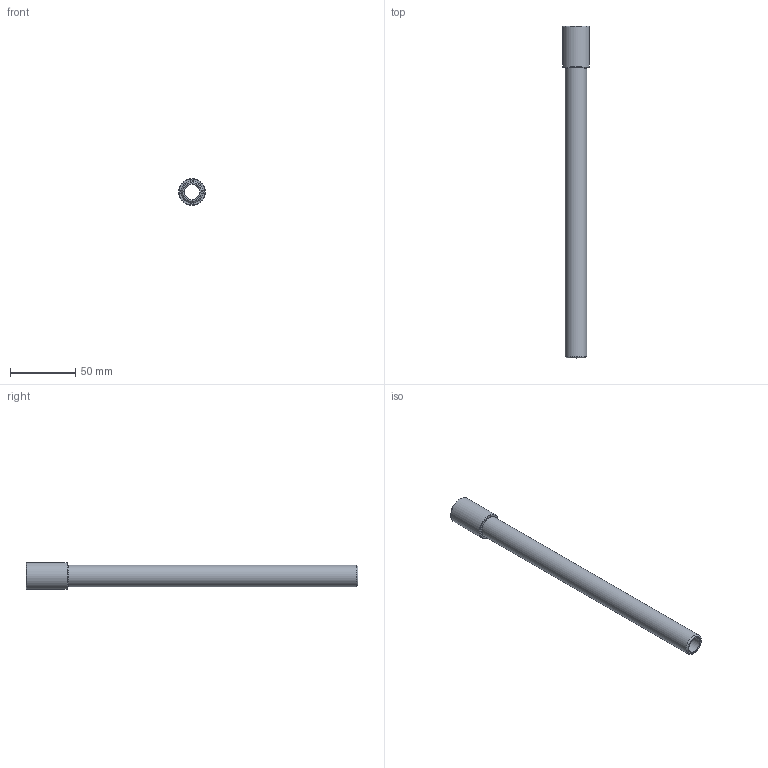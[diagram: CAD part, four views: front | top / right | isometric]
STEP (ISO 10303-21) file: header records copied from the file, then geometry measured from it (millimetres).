
FILE_DESCRIPTION(/* description */ (''),/* implementation_level */ '2;1');
FILE_NAME(/* name */ 'C:/Users/drich/Desktop/EP38X10 v1.step',/* time_stamp */ '2019-11-18T15:07:22-06:00',/* author */ (''),/* organization */ (''),/* preprocessor_version */ 'ST-DEVELOPER v18',/* originating_system */ 'Autodesk Translation Framework v8.12.0.6',/* authorisation */ '');
FILE_SCHEMA (('AUTOMOTIVE_DESIGN { 1 0 10303 214 3 1 1 }'));
Length unit declared in the file: inch
Products named in the file (2): EP38X10; EP38X4
Assembly tree (1 placements, depth 2):
  EP38X10
    EP38X4
Bounding box: 20.62 x 254 x 20.62 mm (x, y, z)
Volume: 28533.9 mm3; surface area: 23739 mm2
Topology: 1 solids, 1 shells, 23 faces, 55 edges, 37 vertices
Faces by surface type: plane 11, cone 7, cylinder 5
Full cylindrical faces by diameter (mm): 11.887 x1, 14.986 x1, 15.173 x1, 16.537 x1, 20.625 x1
Entity records: 740 total; most frequent: CARTESIAN_POINT 132, DIRECTION 124, ORIENTED_EDGE 110, EDGE_CURVE 55, AXIS2_PLACEMENT_3D 50, VERTEX_POINT 37, EDGE_LOOP 28, LINE 24
